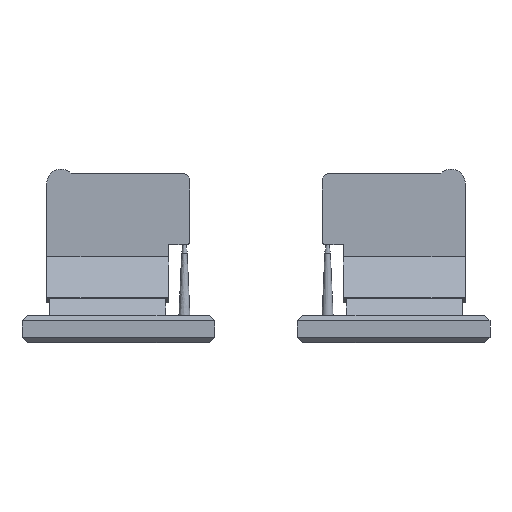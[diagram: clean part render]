
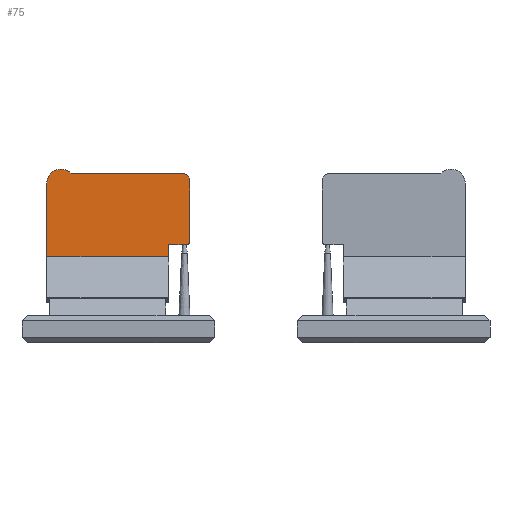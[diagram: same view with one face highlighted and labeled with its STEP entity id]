
A CAD part, front view. The second image highlights one B-rep face of the part: STEP entity #75.
In plain terms, the highlighted planar face has unit normal (0, -1, 0).
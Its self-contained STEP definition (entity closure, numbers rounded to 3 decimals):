
#75=ADVANCED_FACE('',(#461),#5682,.T.);
#461=FACE_OUTER_BOUND('',#849,.T.);
#849=EDGE_LOOP('',(#1332,#1333,#1334,#1335,#1336));
#1332=ORIENTED_EDGE('',*,*,#3124,.F.);
#1333=ORIENTED_EDGE('',*,*,#3126,.T.);
#1334=ORIENTED_EDGE('',*,*,#3417,.T.);
#1335=ORIENTED_EDGE('',*,*,#3418,.T.);
#1336=ORIENTED_EDGE('',*,*,#3419,.T.);
#3124=EDGE_CURVE('',#4943,#4944,#4544,.T.);
#3126=EDGE_CURVE('',#4943,#4945,#4546,.T.);
#3417=EDGE_CURVE('',#4945,#4946,#4659,.T.);
#3418=EDGE_CURVE('',#4946,#4947,#4660,.T.);
#3419=EDGE_CURVE('',#4947,#4944,#4661,.T.);
#4544=B_SPLINE_CURVE_WITH_KNOTS('',1,(#7638,#7639),.UNSPECIFIED.,.F.,.F.,
(2,2),(1.285,10.135),.UNSPECIFIED.);
#4546=B_SPLINE_CURVE_WITH_KNOTS('',1,(#7642,#7643),.UNSPECIFIED.,.F.,.F.,
(2,2),(-18.701,-17.816),.UNSPECIFIED.);
#4659=B_SPLINE_CURVE_WITH_KNOTS('',3,(#8415,#8416,#8417,#8418,#8419,#8420,
#8421,#8422,#8423,#8424,#8425,#8426,#8427,#8428,#8429,#8430,#8431,#8432,
#8433,#8434,#8435,#8436,#8437,#8438,#8439,#8440,#8441,#8442,#8443,#8444,
#8445,#8446,#8447,#8448,#8449,#8450,#8451,#8452,#8453,#8454,#8455,#8456,
#8457,#8458,#8459,#8460,#8461,#8462,#8463,#8464,#8465,#8466),
 .UNSPECIFIED.,.F.,.F.,(4,2,2,2,2,2,2,2,2,2,2,2,2,2,2,2,2,2,2,2,2,2,2,2,
2,4),(0.,0.925,1.156,1.272,1.388,
1.503,1.619,1.648,1.677,1.735,
1.85,3.7,5.55,5.782,6.013,
6.042,6.071,6.129,6.244,6.476,
6.707,6.822,6.938,7.169,7.401,
14.801),.UNSPECIFIED.);
#4660=B_SPLINE_CURVE_WITH_KNOTS('',3,(#8467,#8468,#8469,#8470,#8471,#8472,
#8473,#8474,#8475,#8476,#8477,#8478,#8479,#8480,#8481,#8482,#8483,#8484),
 .UNSPECIFIED.,.F.,.F.,(4,2,2,2,2,2,2,2,4),(14.801,15.1,
15.399,15.698,15.997,16.296,16.595,
16.894,17.193),.UNSPECIFIED.);
#4661=B_SPLINE_CURVE_WITH_KNOTS('',3,(#8485,#8486,#8487,#8488),
 .UNSPECIFIED.,.F.,.F.,(4,4),(17.193,22.936),
 .UNSPECIFIED.);
#4943=VERTEX_POINT('',#7220);
#4944=VERTEX_POINT('',#7221);
#4945=VERTEX_POINT('',#7222);
#4946=VERTEX_POINT('',#7223);
#4947=VERTEX_POINT('',#7224);
#5682=PLANE('',#5985);
#5985=AXIS2_PLACEMENT_3D('',#6661,#6323,$);
#6323=DIRECTION('',(0.,-1.,0.));
#6661=CARTESIAN_POINT('',(-16.5,0.63,5.809));
#7220=CARTESIAN_POINT('',(-6.35,0.63,6.644));
#7221=CARTESIAN_POINT('',(-15.2,0.63,6.644));
#7222=CARTESIAN_POINT('',(-6.35,0.63,7.53));
#7223=CARTESIAN_POINT('',(-13.415,0.63,12.72));
#7224=CARTESIAN_POINT('',(-15.2,0.63,12.007));
#7638=CARTESIAN_POINT('',(-6.35,0.63,6.644));
#7639=CARTESIAN_POINT('',(-15.2,0.63,6.644));
#7642=CARTESIAN_POINT('',(-6.35,0.63,6.644));
#7643=CARTESIAN_POINT('',(-6.35,0.63,7.53));
#8415=CARTESIAN_POINT('',(-6.35,0.63,7.53));
#8416=CARTESIAN_POINT('',(-6.037,0.63,7.53));
#8417=CARTESIAN_POINT('',(-5.724,0.63,7.53));
#8418=CARTESIAN_POINT('',(-5.333,0.63,7.53));
#8419=CARTESIAN_POINT('',(-5.255,0.63,7.53));
#8420=CARTESIAN_POINT('',(-5.138,0.63,7.53));
#8421=CARTESIAN_POINT('',(-5.099,0.63,7.53));
#8422=CARTESIAN_POINT('',(-5.021,0.63,7.531));
#8423=CARTESIAN_POINT('',(-4.982,0.63,7.54));
#8424=CARTESIAN_POINT('',(-4.912,0.63,7.575));
#8425=CARTESIAN_POINT('',(-4.881,0.63,7.601));
#8426=CARTESIAN_POINT('',(-4.832,0.63,7.662));
#8427=CARTESIAN_POINT('',(-4.815,0.63,7.698));
#8428=CARTESIAN_POINT('',(-4.804,0.63,7.746));
#8429=CARTESIAN_POINT('',(-4.803,0.63,7.756));
#8430=CARTESIAN_POINT('',(-4.801,0.63,7.775));
#8431=CARTESIAN_POINT('',(-4.8,0.63,7.785));
#8432=CARTESIAN_POINT('',(-4.8,0.63,7.814));
#8433=CARTESIAN_POINT('',(-4.8,0.63,7.834));
#8434=CARTESIAN_POINT('',(-4.8,0.63,7.892));
#8435=CARTESIAN_POINT('',(-4.8,0.63,7.931));
#8436=CARTESIAN_POINT('',(-4.8,0.63,8.596));
#8437=CARTESIAN_POINT('',(-4.8,0.63,9.222));
#8438=CARTESIAN_POINT('',(-4.8,0.63,10.473));
#8439=CARTESIAN_POINT('',(-4.8,0.63,11.098));
#8440=CARTESIAN_POINT('',(-4.8,0.63,11.802));
#8441=CARTESIAN_POINT('',(-4.8,0.63,11.88));
#8442=CARTESIAN_POINT('',(-4.8,0.63,12.037));
#8443=CARTESIAN_POINT('',(-4.8,0.63,12.115));
#8444=CARTESIAN_POINT('',(-4.8,0.63,12.203));
#8445=CARTESIAN_POINT('',(-4.8,0.63,12.213));
#8446=CARTESIAN_POINT('',(-4.802,0.63,12.232));
#8447=CARTESIAN_POINT('',(-4.802,0.63,12.242));
#8448=CARTESIAN_POINT('',(-4.806,0.63,12.271));
#8449=CARTESIAN_POINT('',(-4.809,0.63,12.29));
#8450=CARTESIAN_POINT('',(-4.822,0.63,12.348));
#8451=CARTESIAN_POINT('',(-4.835,0.63,12.385));
#8452=CARTESIAN_POINT('',(-4.886,0.63,12.49));
#8453=CARTESIAN_POINT('',(-4.936,0.63,12.553));
#8454=CARTESIAN_POINT('',(-5.058,0.63,12.651));
#8455=CARTESIAN_POINT('',(-5.13,0.63,12.687));
#8456=CARTESIAN_POINT('',(-5.244,0.63,12.714));
#8457=CARTESIAN_POINT('',(-5.283,0.63,12.719));
#8458=CARTESIAN_POINT('',(-5.361,0.63,12.72));
#8459=CARTESIAN_POINT('',(-5.4,0.63,12.72));
#8460=CARTESIAN_POINT('',(-5.517,0.63,12.72));
#8461=CARTESIAN_POINT('',(-5.595,0.63,12.72));
#8462=CARTESIAN_POINT('',(-5.752,0.63,12.72));
#8463=CARTESIAN_POINT('',(-5.83,0.63,12.72));
#8464=CARTESIAN_POINT('',(-8.41,0.63,12.72));
#8465=CARTESIAN_POINT('',(-10.913,0.63,12.72));
#8466=CARTESIAN_POINT('',(-13.415,0.63,12.72));
#8467=CARTESIAN_POINT('',(-13.415,0.63,12.72));
#8468=CARTESIAN_POINT('',(-13.487,0.63,12.791));
#8469=CARTESIAN_POINT('',(-13.57,0.63,12.851));
#8470=CARTESIAN_POINT('',(-13.749,0.63,12.946));
#8471=CARTESIAN_POINT('',(-13.845,0.63,12.98));
#8472=CARTESIAN_POINT('',(-14.043,0.63,13.019));
#8473=CARTESIAN_POINT('',(-14.145,0.63,13.025));
#8474=CARTESIAN_POINT('',(-14.346,0.63,13.006));
#8475=CARTESIAN_POINT('',(-14.446,0.63,12.983));
#8476=CARTESIAN_POINT('',(-14.634,0.63,12.908));
#8477=CARTESIAN_POINT('',(-14.722,0.63,12.856));
#8478=CARTESIAN_POINT('',(-14.881,0.63,12.731));
#8479=CARTESIAN_POINT('',(-14.951,0.63,12.657));
#8480=CARTESIAN_POINT('',(-15.067,0.63,12.491));
#8481=CARTESIAN_POINT('',(-15.113,0.63,12.4));
#8482=CARTESIAN_POINT('',(-15.178,0.63,12.209));
#8483=CARTESIAN_POINT('',(-15.196,0.63,12.108));
#8484=CARTESIAN_POINT('',(-15.2,0.63,12.007));
#8485=CARTESIAN_POINT('',(-15.2,0.63,12.007));
#8486=CARTESIAN_POINT('',(-15.2,0.63,10.22));
#8487=CARTESIAN_POINT('',(-15.2,0.63,8.432));
#8488=CARTESIAN_POINT('',(-15.2,0.63,6.644));
